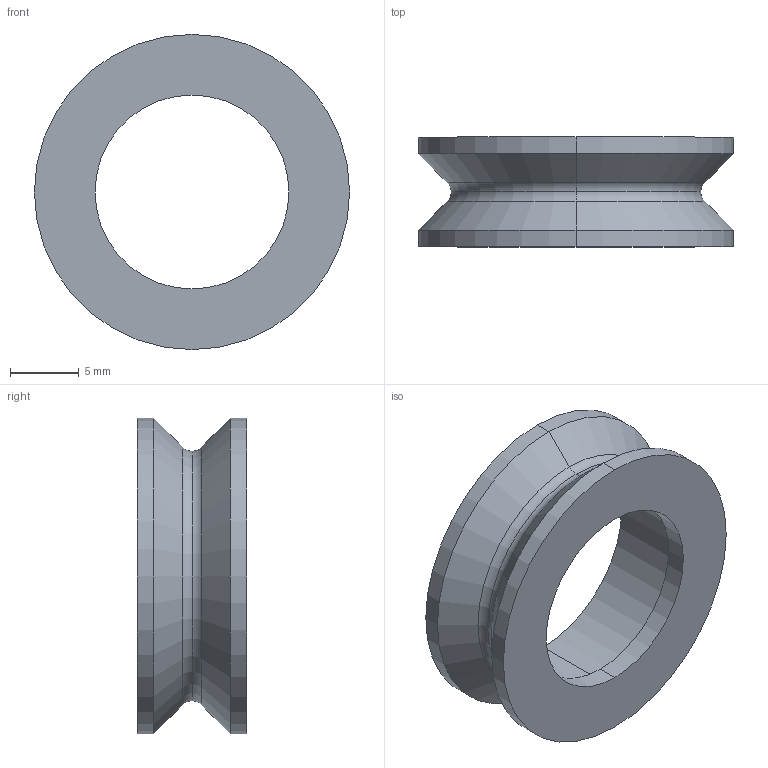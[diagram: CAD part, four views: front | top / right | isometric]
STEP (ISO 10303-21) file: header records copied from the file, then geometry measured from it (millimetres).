
FILE_DESCRIPTION (( 'STEP AP203' ), '1' );
FILE_NAME ('DBP_UPPER_ROLLER_GUIDE_wheel.STEP', '2018-11-06T19:05:16', ( '' ), ( '' ), 'SwSTEP 2.0', 'SolidWorks 2015', '' );
FILE_SCHEMA (( 'CONFIG_CONTROL_DESIGN' ));
Length unit declared in the file: inch
Products named in the file (1): DBP_UPPER_ROLLER_GUIDE_wheel
Bounding box: 23 x 8 x 23 mm (x, y, z)
Volume: 1231.5 mm3; surface area: 1544.3 mm2
Topology: 1 solids, 1 shells, 21 faces, 42 edges, 24 vertices
Faces by surface type: cylinder 8, cone 6, torus 4, plane 3
Entity records: 631 total; most frequent: DIRECTION 114, CARTESIAN_POINT 88, ORIENTED_EDGE 84, AXIS2_PLACEMENT_3D 50, EDGE_CURVE 42, CIRCLE 28, EDGE_LOOP 24, VERTEX_POINT 24
